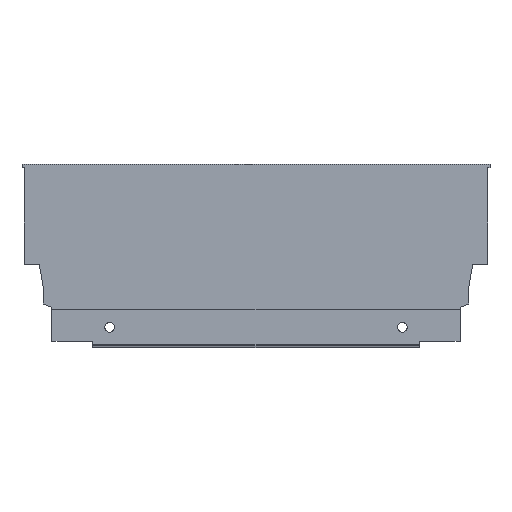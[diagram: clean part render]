
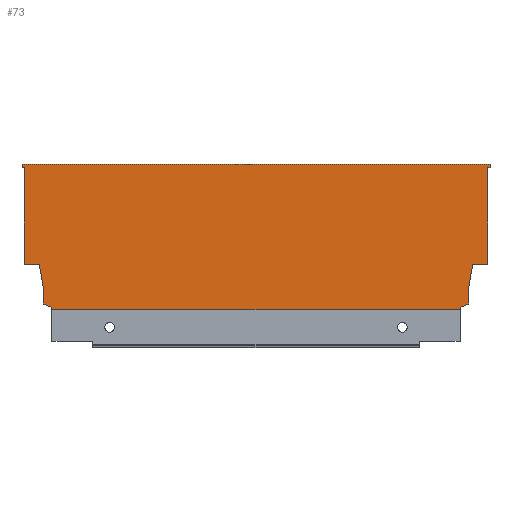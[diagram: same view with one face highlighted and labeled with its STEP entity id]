
A CAD part, top view. The second image highlights one B-rep face of the part: STEP entity #73.
In plain terms, the highlighted planar face has unit normal (0, 0, 1).
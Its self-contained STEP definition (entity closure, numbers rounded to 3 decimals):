
#12 = CARTESIAN_POINT ( 'NONE',  ( -208.1, 2.64, 7.5 ) ) ;
#60 = CARTESIAN_POINT ( 'NONE',  ( 0., 0., 7.5 ) ) ;
#61 = DIRECTION ( 'NONE',  ( 0., -1., 0. ) ) ;
#73 = ADVANCED_FACE ( 'NONE', ( #291 ), #786, .T. ) ;
#165 = LINE ( 'NONE', #60, #170 ) ;
#170 = VECTOR ( 'NONE', #61, 1000. ) ;
#207 = VECTOR ( 'NONE', #1512, 1000. ) ;
#210 = LINE ( 'NONE', #1511, #207 ) ;
#213 = LINE ( 'NONE', #1503, #214 ) ;
#214 = VECTOR ( 'NONE', #1504, 1000. ) ;
#216 = LINE ( 'NONE', #1517, #253 ) ;
#217 = LINE ( 'NONE', #1507, #218 ) ;
#218 = VECTOR ( 'NONE', #1508, 1000. ) ;
#222 = LINE ( 'NONE', #1513, #223 ) ;
#223 = VECTOR ( 'NONE', #1514, 1000. ) ;
#224 = LINE ( 'NONE', #1515, #225 ) ;
#225 = VECTOR ( 'NONE', #1516, 1000. ) ;
#227 = LINE ( 'NONE', #1519, #228 ) ;
#228 = VECTOR ( 'NONE', #1520, 1000. ) ;
#229 = LINE ( 'NONE', #1521, #230 ) ;
#230 = VECTOR ( 'NONE', #1522, 1000. ) ;
#231 = LINE ( 'NONE', #1523, #232 ) ;
#232 = VECTOR ( 'NONE', #1524, 1000. ) ;
#233 = LINE ( 'NONE', #1525, #234 ) ;
#234 = VECTOR ( 'NONE', #1526, 1000. ) ;
#235 = LINE ( 'NONE', #1527, #236 ) ;
#236 = VECTOR ( 'NONE', #1528, 1000. ) ;
#237 = LINE ( 'NONE', #1529, #238 ) ;
#238 = VECTOR ( 'NONE', #1530, 1000. ) ;
#239 = LINE ( 'NONE', #1531, #240 ) ;
#240 = VECTOR ( 'NONE', #1532, 1000. ) ;
#241 = LINE ( 'NONE', #1533, #242 ) ;
#242 = VECTOR ( 'NONE', #1534, 1000. ) ;
#245 = LINE ( 'NONE', #1537, #246 ) ;
#246 = VECTOR ( 'NONE', #1538, 1000. ) ;
#249 = LINE ( 'NONE', #1541, #250 ) ;
#250 = VECTOR ( 'NONE', #1542, 1000. ) ;
#253 = VECTOR ( 'NONE', #1546, 1000. ) ;
#256 = LINE ( 'NONE', #1549, #257 ) ;
#257 = VECTOR ( 'NONE', #1550, 1000. ) ;
#291 = FACE_OUTER_BOUND ( 'NONE', #506, .T. ) ;
#506 = EDGE_LOOP ( 'NONE', ( #540, #541, #542, #543, #544, #545, #546, #547, #548, #549, #550, #551, #552, #553, #554, #555, #556, #557 ) ) ;
#540 = ORIENTED_EDGE ( 'NONE', *, *, #1380, .F. ) ;
#541 = ORIENTED_EDGE ( 'NONE', *, *, #1383, .F. ) ;
#542 = ORIENTED_EDGE ( 'NONE', *, *, #1376, .T. ) ;
#543 = ORIENTED_EDGE ( 'NONE', *, *, #1385, .T. ) ;
#544 = ORIENTED_EDGE ( 'NONE', *, *, #1378, .F. ) ;
#545 = ORIENTED_EDGE ( 'NONE', *, *, #1379, .F. ) ;
#546 = ORIENTED_EDGE ( 'NONE', *, *, #1382, .F. ) ;
#547 = ORIENTED_EDGE ( 'NONE', *, *, #1387, .F. ) ;
#548 = ORIENTED_EDGE ( 'NONE', *, *, #1384, .F. ) ;
#549 = ORIENTED_EDGE ( 'NONE', *, *, #1374, .T. ) ;
#550 = ORIENTED_EDGE ( 'NONE', *, *, #1386, .F. ) ;
#551 = ORIENTED_EDGE ( 'NONE', *, *, #1388, .F. ) ;
#552 = ORIENTED_EDGE ( 'NONE', *, *, #1389, .F. ) ;
#553 = ORIENTED_EDGE ( 'NONE', *, *, #1391, .F. ) ;
#554 = ORIENTED_EDGE ( 'NONE', *, *, #1393, .F. ) ;
#555 = ORIENTED_EDGE ( 'NONE', *, *, #1358, .F. ) ;
#556 = ORIENTED_EDGE ( 'NONE', *, *, #1395, .F. ) ;
#557 = ORIENTED_EDGE ( 'NONE', *, *, #1397, .F. ) ;
#681 = VERTEX_POINT ( 'NONE', #1101 ) ;
#682 = VERTEX_POINT ( 'NONE', #1105 ) ;
#685 = VERTEX_POINT ( 'NONE', #1108 ) ;
#687 = VERTEX_POINT ( 'NONE', #1110 ) ;
#690 = VERTEX_POINT ( 'NONE', #1113 ) ;
#691 = VERTEX_POINT ( 'NONE', #1114 ) ;
#700 = VERTEX_POINT ( 'NONE', #1123 ) ;
#704 = VERTEX_POINT ( 'NONE', #1127 ) ;
#705 = VERTEX_POINT ( 'NONE', #1128 ) ;
#706 = VERTEX_POINT ( 'NONE', #1129 ) ;
#711 = VERTEX_POINT ( 'NONE', #1134 ) ;
#715 = VERTEX_POINT ( 'NONE', #1138 ) ;
#724 = VERTEX_POINT ( 'NONE', #1147 ) ;
#727 = VERTEX_POINT ( 'NONE', #1150 ) ;
#728 = VERTEX_POINT ( 'NONE', #1151 ) ;
#731 = VERTEX_POINT ( 'NONE', #1154 ) ;
#736 = VERTEX_POINT ( 'NONE', #1159 ) ;
#755 = VERTEX_POINT ( 'NONE', #12 ) ;
#786 = PLANE ( 'NONE',  #1421 ) ;
#789 = CARTESIAN_POINT ( 'NONE',  ( -217., 0., 7.5 ) ) ;
#795 = DIRECTION ( 'NONE',  ( 0., 0., 1. ) ) ;
#796 = DIRECTION ( 'NONE',  ( 1., 0., 0. ) ) ;
#1101 = CARTESIAN_POINT ( 'NONE',  ( 0., 21.2, 7.5 ) ) ;
#1105 = CARTESIAN_POINT ( 'NONE',  ( -217., 66.5, 7.5 ) ) ;
#1108 = CARTESIAN_POINT ( 'NONE',  ( 0., 66.5, 7.5 ) ) ;
#1110 = CARTESIAN_POINT ( 'NONE',  ( -13.004, 0., 7.5 ) ) ;
#1113 = CARTESIAN_POINT ( 'NONE',  ( -218., 66.5, 7.5 ) ) ;
#1114 = CARTESIAN_POINT ( 'NONE',  ( -209.94, 21.2, 7.5 ) ) ;
#1123 = CARTESIAN_POINT ( 'NONE',  ( -203.996, 0., 7.5 ) ) ;
#1127 = CARTESIAN_POINT ( 'NONE',  ( -217., 21.2, 7.5 ) ) ;
#1128 = CARTESIAN_POINT ( 'NONE',  ( 1., 68., 7.5 ) ) ;
#1129 = CARTESIAN_POINT ( 'NONE',  ( -218., 68., 7.5 ) ) ;
#1134 = CARTESIAN_POINT ( 'NONE',  ( -8.9, 10.765, 7.5 ) ) ;
#1138 = CARTESIAN_POINT ( 'NONE',  ( -208.1, 10.765, 7.5 ) ) ;
#1147 = CARTESIAN_POINT ( 'NONE',  ( -13.004, 1.146, 7.5 ) ) ;
#1150 = CARTESIAN_POINT ( 'NONE',  ( -8.9, 2.64, 7.5 ) ) ;
#1151 = CARTESIAN_POINT ( 'NONE',  ( 1., 66.5, 7.5 ) ) ;
#1154 = CARTESIAN_POINT ( 'NONE',  ( -203.996, 1.146, 7.5 ) ) ;
#1159 = CARTESIAN_POINT ( 'NONE',  ( -7.06, 21.2, 7.5 ) ) ;
#1358 = EDGE_CURVE ( 'NONE', #685, #681, #165, .T. ) ;
#1374 = EDGE_CURVE ( 'NONE', #700, #687, #213, .T. ) ;
#1376 = EDGE_CURVE ( 'NONE', #690, #682, #217, .T. ) ;
#1378 = EDGE_CURVE ( 'NONE', #691, #704, #210, .T. ) ;
#1379 = EDGE_CURVE ( 'NONE', #715, #691, #222, .T. ) ;
#1380 = EDGE_CURVE ( 'NONE', #706, #705, #224, .T. ) ;
#1382 = EDGE_CURVE ( 'NONE', #755, #715, #227, .T. ) ;
#1383 = EDGE_CURVE ( 'NONE', #690, #706, #229, .T. ) ;
#1384 = EDGE_CURVE ( 'NONE', #700, #731, #231, .T. ) ;
#1385 = EDGE_CURVE ( 'NONE', #682, #704, #233, .T. ) ;
#1386 = EDGE_CURVE ( 'NONE', #724, #687, #235, .T. ) ;
#1387 = EDGE_CURVE ( 'NONE', #731, #755, #237, .T. ) ;
#1388 = EDGE_CURVE ( 'NONE', #727, #724, #239, .T. ) ;
#1389 = EDGE_CURVE ( 'NONE', #711, #727, #241, .T. ) ;
#1391 = EDGE_CURVE ( 'NONE', #736, #711, #245, .T. ) ;
#1393 = EDGE_CURVE ( 'NONE', #681, #736, #249, .T. ) ;
#1395 = EDGE_CURVE ( 'NONE', #728, #685, #216, .T. ) ;
#1397 = EDGE_CURVE ( 'NONE', #705, #728, #256, .T. ) ;
#1421 = AXIS2_PLACEMENT_3D ( 'NONE', #789, #795, #796 ) ;
#1503 = CARTESIAN_POINT ( 'NONE',  ( -217., 0., 7.5 ) ) ;
#1504 = DIRECTION ( 'NONE',  ( 1., 0., 0. ) ) ;
#1507 = CARTESIAN_POINT ( 'NONE',  ( -218., 66.5, 7.5 ) ) ;
#1508 = DIRECTION ( 'NONE',  ( 1., 0., 0. ) ) ;
#1511 = CARTESIAN_POINT ( 'NONE',  ( -222., 21.2, 7.5 ) ) ;
#1512 = DIRECTION ( 'NONE',  ( -1., 0., 0. ) ) ;
#1513 = CARTESIAN_POINT ( 'NONE',  ( -209.94, 21.2, 7.5 ) ) ;
#1514 = DIRECTION ( 'NONE',  ( -0.174, 0.985, 0. ) ) ;
#1515 = CARTESIAN_POINT ( 'NONE',  ( -217., 68., 7.5 ) ) ;
#1516 = DIRECTION ( 'NONE',  ( 1., 0., 0. ) ) ;
#1517 = CARTESIAN_POINT ( 'NONE',  ( 1., 66.5, 7.5 ) ) ;
#1519 = CARTESIAN_POINT ( 'NONE',  ( -208.1, 10.765, 7.5 ) ) ;
#1520 = DIRECTION ( 'NONE',  ( 0., 1., 0. ) ) ;
#1521 = CARTESIAN_POINT ( 'NONE',  ( -218., 66.5, 7.5 ) ) ;
#1522 = DIRECTION ( 'NONE',  ( 0., 1., 0. ) ) ;
#1523 = CARTESIAN_POINT ( 'NONE',  ( -203.996, 1.146, 7.5 ) ) ;
#1524 = DIRECTION ( 'NONE',  ( 0., 1., 0. ) ) ;
#1525 = CARTESIAN_POINT ( 'NONE',  ( -217., 0., 7.5 ) ) ;
#1526 = DIRECTION ( 'NONE',  ( 0., -1., 0. ) ) ;
#1527 = CARTESIAN_POINT ( 'NONE',  ( -13.004, 1.146, 7.5 ) ) ;
#1528 = DIRECTION ( 'NONE',  ( 0., -1., 0. ) ) ;
#1529 = CARTESIAN_POINT ( 'NONE',  ( -208.1, 2.64, 7.5 ) ) ;
#1530 = DIRECTION ( 'NONE',  ( -0.94, 0.342, 0. ) ) ;
#1531 = CARTESIAN_POINT ( 'NONE',  ( -8.9, 2.64, 7.5 ) ) ;
#1532 = DIRECTION ( 'NONE',  ( -0.94, -0.342, 0. ) ) ;
#1533 = CARTESIAN_POINT ( 'NONE',  ( -8.9, 10.765, 7.5 ) ) ;
#1534 = DIRECTION ( 'NONE',  ( 0., -1., 0. ) ) ;
#1537 = CARTESIAN_POINT ( 'NONE',  ( -7.06, 21.2, 7.5 ) ) ;
#1538 = DIRECTION ( 'NONE',  ( -0.174, -0.985, 0. ) ) ;
#1541 = CARTESIAN_POINT ( 'NONE',  ( 0., 21.2, 7.5 ) ) ;
#1542 = DIRECTION ( 'NONE',  ( -1., 0., 0. ) ) ;
#1546 = DIRECTION ( 'NONE',  ( -1., 0., 0. ) ) ;
#1549 = CARTESIAN_POINT ( 'NONE',  ( 1., 68., 7.5 ) ) ;
#1550 = DIRECTION ( 'NONE',  ( 0., -1., 0. ) ) ;
